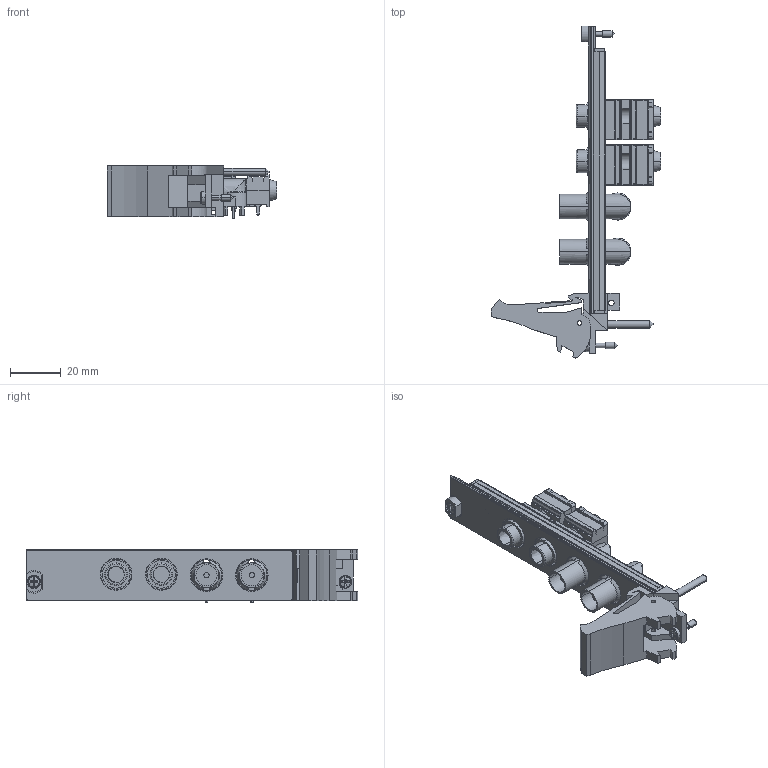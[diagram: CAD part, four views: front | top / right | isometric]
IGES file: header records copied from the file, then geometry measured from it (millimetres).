
Start section:  PTC IGES file: cu_pxi-2188.igs
Global section: file name: cu_pxi-2188.igs; native system: Pro/ENGINEER by Parametric Technology Corporation; preprocessor: 2006080; author: jjorden; organization: Unknown; date: 100120.124533; units: inch
Bounding box: 66.48 x 130.5 x 21.1 mm (x, y, z)
Surface area: 24080.6 mm2 (no closed solid volume)
Topology: 0 solids, 0 shells, 755 faces, 4100 edges, 4096 vertices
Faces by surface type: bspline 498, revolution 257
